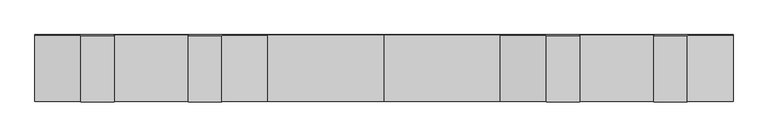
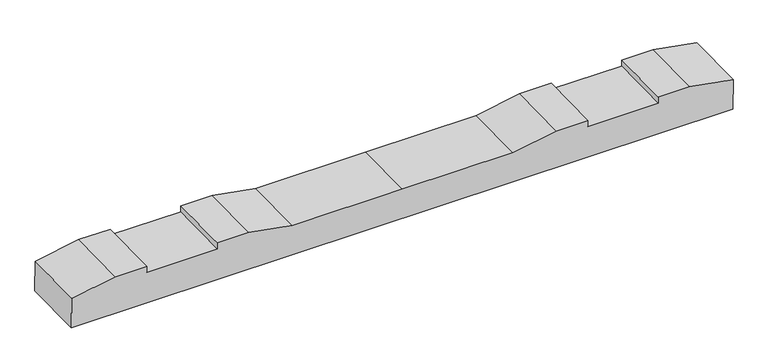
"""IFC4 building model written with IfcOpenShell, lengths in millimetres: proxy geometry, 轨枕-立面角度 : 轨枕-立面角度."""

import ifcopenshell
import ifcopenshell.guid

model = None  # the IFC model being written
_history = None  # IfcOwnerHistory: only IFC2X3 demands one
_inside = {}  # id of a spatial element -> (the spatial element, [elements in it])
_under = {}  # id of a project, library or spatial element -> (it, [spatial elements below it])
_declared = {}  # id of a project -> (the project, [libraries it declares])
_typed = {}  # id of a type object -> (the type object, [elements of that type])
_made_of = {}  # id of a material, layer set ... -> (it, [elements and type objects made of it])


def new_model(schema):
    """Start an empty IFC model of exactly this schema.

    Asked for "IFC4X3", IfcOpenShell would pick the latest addendum, in which some entities
    have other attributes; the version numbers below select the first issue.
    IFC2X3 requires an IfcOwnerHistory on every rooted entity: one is made here for all.
    """
    global model, _history
    if schema == "IFC4X3":
        model = ifcopenshell.file(schema_version=(4, 3, 0, 0))
    else:
        model = ifcopenshell.file(schema=schema)
    _inside.clear()
    _under.clear()
    _declared.clear()
    _typed.clear()
    _made_of.clear()
    _history = None
    if model.schema == "IFC2X3":
        org = make("IfcOrganization", Name="unknown")
        user = make(
            "IfcPersonAndOrganization",
            ThePerson=make("IfcPerson", FamilyName="unknown"),
            TheOrganization=org,
        )
        app = make(
            "IfcApplication",
            ApplicationDeveloper=org,
            Version="unknown",
            ApplicationFullName="unknown",
            ApplicationIdentifier="unknown",
        )
        _history = make(
            "IfcOwnerHistory",
            OwningUser=user,
            OwningApplication=app,
            ChangeAction="ADDED",
            CreationDate=0,
        )
    return model


def make(cls, **values):
    """One entity of the class cls with the attributes given. An attribute that is None is left unset."""
    return model.create_entity(
        cls, **{name: value for name, value in values.items() if value is not None}
    )


def rooted(cls, **values):
    """An entity with a GlobalId (a new one), such as an element, a storey or a relation."""
    return make(cls, GlobalId=ifcopenshell.guid.new(), OwnerHistory=_history, **values)


def si_unit(unit_type, name, prefix=None):
    """IfcSIUnit, for example si_unit("LENGTHUNIT", "METRE", prefix="MILLI")."""
    return make("IfcSIUnit", UnitType=unit_type, Prefix=prefix, Name=name)


def assignment(units):
    """IfcUnitAssignment: the units of a project."""
    return None if units is None else make("IfcUnitAssignment", Units=units)


def point(xyz):
    """IfcCartesianPoint."""
    return None if xyz is None else make("IfcCartesianPoint", Coordinates=xyz)


def direction(xyz):
    """IfcDirection."""
    return None if xyz is None else make("IfcDirection", DirectionRatios=xyz)


def frame(location, z_axis=None, x_axis=None):
    """IfcAxis2Placement3D, a coordinate frame: its origin and axes. An axis left out is left unset."""
    return make(
        "IfcAxis2Placement3D",
        Location=point(location),
        Axis=direction(z_axis),
        RefDirection=direction(x_axis),
    )


def origin():
    """The frame at (0, 0, 0) with its axes left unset."""
    return frame((0.0, 0.0, 0.0))


def place(relative_to, where):
    """IfcLocalPlacement: puts the frame where relative to a parent placement (None: the world)."""
    return make(
        "IfcLocalPlacement", PlacementRelTo=relative_to, RelativePlacement=where
    )


def context(
    kind, dimensions, precision=None, world=None, true_north=None, identifier=None
):
    """IfcGeometricRepresentationContext, for example the 3D "Model" context."""
    return make(
        "IfcGeometricRepresentationContext",
        ContextIdentifier=identifier,
        ContextType=kind,
        CoordinateSpaceDimension=dimensions,
        Precision=precision,
        WorldCoordinateSystem=world,
        TrueNorth=true_north,
    )


def project(units=None, contexts=None):
    """IfcProject with its units and contexts."""
    return rooted(
        "IfcProject",
        Name="project",
        RepresentationContexts=contexts,
        UnitsInContext=assignment(units),
    )


def spatial(cls, under=None, at=None, **own):
    """A site, building, storey or space (cls), placed at a placement, below another one or the project."""
    s = rooted(cls, ObjectPlacement=at, **own)
    if under is not None:
        _under.setdefault(under.id(), (under, []))[1].append(s)
    return s


def polyline(points):
    """IfcPolyline through the points."""
    return make("IfcPolyline", Points=[point(p) for p in points])


def outline(outer, holes=None, kind="AREA"):
    """IfcArbitraryClosedProfileDef: a profile drawn as a closed curve; with holes, ...WithVoids."""
    if holes is None:
        return make("IfcArbitraryClosedProfileDef", ProfileType=kind, OuterCurve=outer)
    return make(
        "IfcArbitraryProfileDefWithVoids",
        ProfileType=kind,
        OuterCurve=outer,
        InnerCurves=holes,
    )


def extrude(swept, where, along, depth):
    """IfcExtrudedAreaSolid: the profile swept, set in the frame where, extruded along a direction by depth."""
    return make(
        "IfcExtrudedAreaSolid",
        SweptArea=swept,
        Position=where,
        ExtrudedDirection=direction(along),
        Depth=depth,
    )


def shape(context_of_items, identifier, shape_type, items):
    """IfcShapeRepresentation: the items that make up one representation, for example the "Body"."""
    return make(
        "IfcShapeRepresentation",
        ContextOfItems=context_of_items,
        RepresentationIdentifier=identifier,
        RepresentationType=shape_type,
        Items=items,
    )


def source(mapping_origin, context_of_items, identifier, shape_type, items):
    """IfcRepresentationMap: a shape defined once, which mapped items show again and again."""
    return make(
        "IfcRepresentationMap",
        MappingOrigin=mapping_origin,
        MappedRepresentation=shape(context_of_items, identifier, shape_type, items),
    )


def transform(
    local_origin,
    x_axis=None,
    y_axis=None,
    z_axis=None,
    scale=None,
    scale2=None,
    scale3=None,
    uniform=True,
):
    """IfcCartesianTransformationOperator3D, or its non-uniform kind. x_axis, y_axis, z_axis: its Axis1, 2, 3."""
    if uniform:
        return make(
            "IfcCartesianTransformationOperator3D",
            Axis1=direction(x_axis),
            Axis2=direction(y_axis),
            LocalOrigin=point(local_origin),
            Scale=scale,
            Axis3=direction(z_axis),
        )
    return make(
        "IfcCartesianTransformationOperator3DnonUniform",
        Axis1=direction(x_axis),
        Axis2=direction(y_axis),
        LocalOrigin=point(local_origin),
        Scale=scale,
        Axis3=direction(z_axis),
        Scale2=scale2,
        Scale3=scale3,
    )


def mapped(mapping_source, mapping_target):
    """IfcMappedItem: shows the shape of a source again, moved by a transform."""
    return make(
        "IfcMappedItem", MappingSource=mapping_source, MappingTarget=mapping_target
    )


def made_of(thing, what):
    """Note that an element or type object is made of a material, layer set ...; save() writes the relation."""
    if what is not None:
        _made_of.setdefault(what.id(), (what, []))[1].append(thing)
    return thing


def element(
    cls,
    number,
    at=None,
    inside=None,
    cuts=None,
    type_object=None,
    material=None,
    context=None,
    identifier="Body",
    shape_type=None,
    held_by="IfcProductDefinitionShape",
    body=None,
    shapes=None,
    **own,
):
    """One element of the class cls, such as IfcWall. Its Tag is "e" and its number.

    at: its placement. inside: the storey or other place that contains it. cuts: it is an
    opening in that element (IfcRelVoidsElement). A single representation is given by context,
    identifier, shape_type and body (its items); several are given by shapes. held_by: the class
    of the entity that holds the representations. save() writes the other relations.
    """
    e = rooted(cls, Tag="e%d" % number, ObjectPlacement=at, **own)
    if body is not None:
        shapes = [shape(context, identifier, shape_type, body)]
    if shapes is not None:
        e.Representation = make(held_by, Representations=shapes)
    if inside is not None:
        _inside.setdefault(inside.id(), (inside, []))[1].append(e)
    if cuts is not None:
        rooted(
            "IfcRelVoidsElement", RelatingBuildingElement=cuts, RelatedOpeningElement=e
        )
    if type_object is not None:
        _typed.setdefault(type_object.id(), (type_object, []))[1].append(e)
    return made_of(e, material)


def aggregate(whole, parts):
    """IfcRelAggregates: a whole, such as a stair, and the parts it consists of."""
    return rooted("IfcRelAggregates", RelatingObject=whole, RelatedObjects=parts)


def save(model, path):
    """Write the relations noted so far, then the file.

    IfcRelAggregates (storeys below a building ...), IfcRelContainedInSpatialStructure (elements
    in a storey), IfcRelDefinesByType, IfcRelAssociatesMaterial and IfcRelDeclares: one each for
    every whole, place, type object, material and project.
    """
    for whole, parts in _under.values():
        aggregate(whole, parts)
    for where, things in _inside.values():
        rooted(
            "IfcRelContainedInSpatialStructure",
            RelatedElements=things,
            RelatingStructure=where,
        )
    for kind, things in _typed.values():
        rooted("IfcRelDefinesByType", RelatedObjects=things, RelatingType=kind)
    for what, things in _made_of.values():
        rooted("IfcRelAssociatesMaterial", RelatedObjects=things, RelatingMaterial=what)
    for by, libraries in _declared.values():
        rooted("IfcRelDeclares", RelatingContext=by, RelatedDefinitions=libraries)
    model.write(path)


def generic_models_b0db9e45(model_context):
    return source(origin(), model_context, "Body", "SweptSolid", [
        extrude(outline(polyline([(0.0, 0.0), (2099.7669328, 0.0), (2099.7669328, -100.0206889), (1961.8834664, -124.5), (1861.8834664, -124.5), (1861.8834664, -104.5), (1637.8834664, -104.5), (1637.8834664, -124.5), (1537.8834664, -124.5), (1399.8834664, -100.0), (1049.8834664, -100.0), (699.8834664, -100.0), (561.8834664, -124.5), (461.8834664, -124.5), (461.8834664, -104.5), (237.8834664, -104.5), (237.8834664, -124.5), (137.8834664, -124.5), (0.0, -100.0206889), (0.0, 0.0)])), frame((-1049.8834664, -98.2155768, -106.1788608), z_axis=(0.0, 0.9998565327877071, 0.016938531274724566), x_axis=(1.0, 0.0, 0.0)), (0.0, 0.0, 1.0), 200.0),
    ])


if __name__ == "__main__":
    model = new_model("IFC4")
    model_context = context("Model", 3, world=origin())
    ifc_project = project(units=[si_unit("LENGTHUNIT", "METRE", prefix="MILLI")], contexts=[model_context])
    site = spatial("IfcSite", under=ifc_project)
    building = spatial("IfcBuilding", under=site)
    placement = place(None, origin())
    generic_models_shape = generic_models_b0db9e45(model_context)
    element("IfcBuildingElementProxy", 1, Name="轨枕-立面角度 : 轨枕-立面角度", ObjectType="轨枕-立面角度 : 轨枕-立面角度", at=placement, inside=building, context=model_context, shape_type="MappedRepresentation", body=[
        mapped(generic_models_shape, transform((0.0, 0.0, 0.0), x_axis=(1.0, 0.0, 0.0), y_axis=(0.0, 1.0, 0.0), z_axis=(0.0, 0.0, 1.0))),
    ])
    save(model, "model.ifc")
